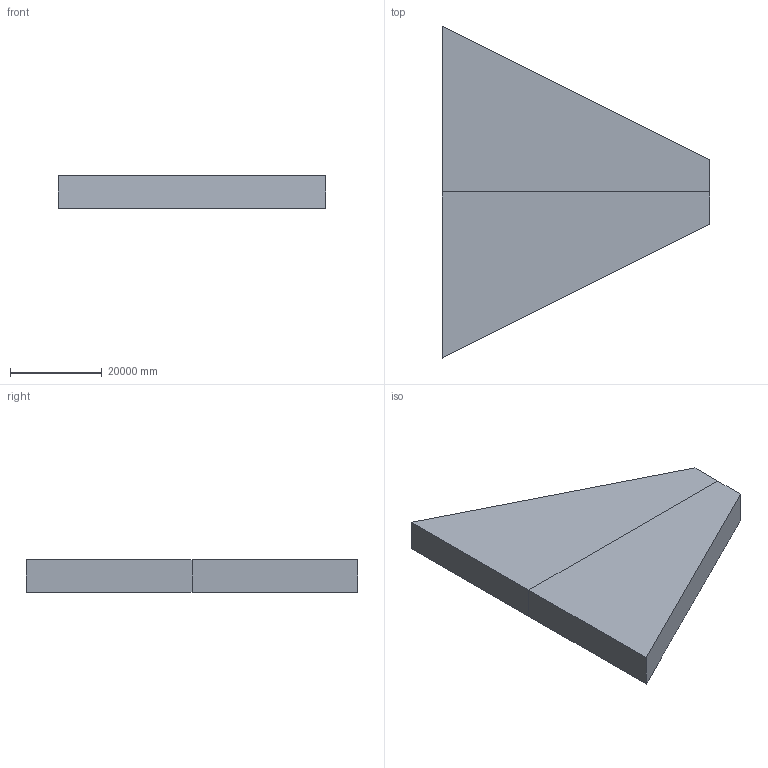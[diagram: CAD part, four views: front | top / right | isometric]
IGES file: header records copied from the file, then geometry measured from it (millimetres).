
Global section: file name: D:\univ\Stability_RD_Committee\Website\Benchmark_data\GustoMSC\WIP\R02\UNITS-data-sheet-jackup-and-semisub-Rev-2\Geometry\Jackup_HULL.igs; native system: Rhinoceros ( Dec 12 2013 ); preprocessor: Trout Lake IGES 012 Dec 12 2013; date: 140212.193641; units: metre
Bounding box: 58100 x 72200 x 7000 mm (x, y, z)
Surface area: 6521342111.4 mm2 (no closed solid volume)
Topology: 0 solids, 0 shells, 10 faces, 40 edges, 40 vertices
Faces by surface type: bspline 10
